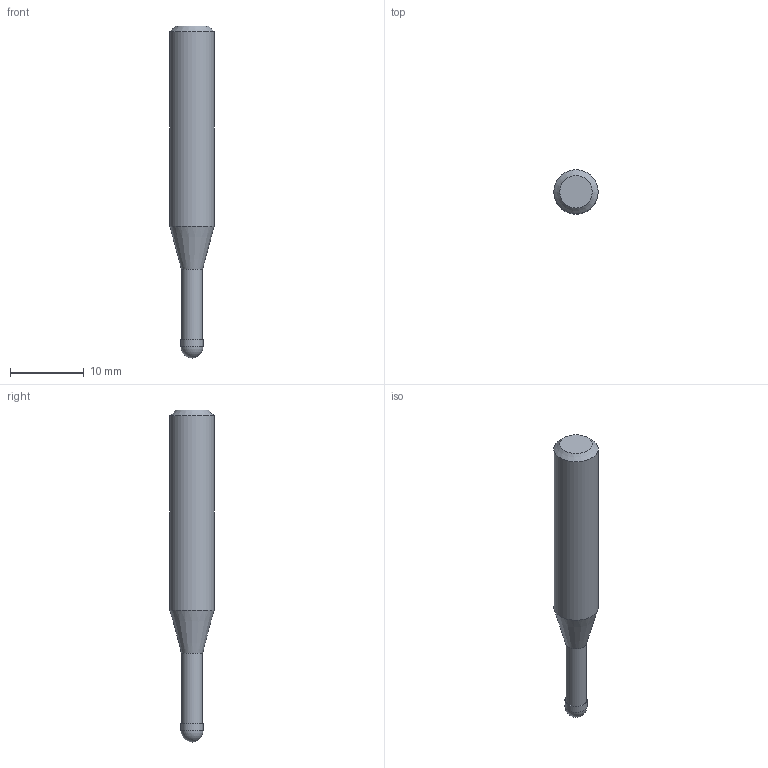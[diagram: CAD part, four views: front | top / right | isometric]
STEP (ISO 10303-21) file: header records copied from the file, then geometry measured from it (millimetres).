
FILE_DESCRIPTION((''),'2;1');
FILE_NAME('C:\Users\nsx150\AppData\Local\Temp\Mastercam 2021\QT8KEW0Y7J\TEMP.step','2021-04-23T11:21:47',(''),(''),'STEP Write','Mastercam 2021 ... CNC Software, Inc.','');
FILE_SCHEMA(('AUTOMOTIVE_DESIGN'));
Length unit declared in the file: millimetre
Products named in the file (1): None
Bounding box: 6 x 6 x 45 mm (x, y, z)
Volume: 930.3 mm3; surface area: 736.5 mm2
Topology: 2 solids, 2 shells, 9 faces, 14 edges, 8 vertices
Faces by surface type: plane 3, cylinder 3, cone 2, sphere 1
Full cylindrical faces by diameter (mm): 2.85 x1, 3 x1, 6 x1
Entity records: 211 total; most frequent: DIRECTION 36, CARTESIAN_POINT 25, AXIS2_PLACEMENT_3D 18, ORIENTED_EDGE 14, EDGE_LOOP 14, STYLED_ITEM 12, ADVANCED_FACE 9, FACE_BOUND 8
